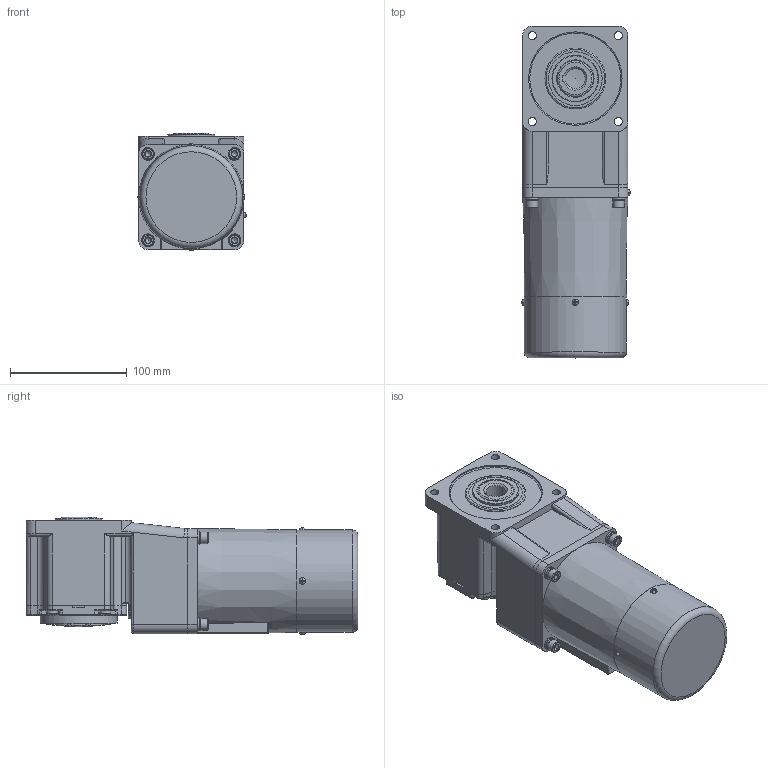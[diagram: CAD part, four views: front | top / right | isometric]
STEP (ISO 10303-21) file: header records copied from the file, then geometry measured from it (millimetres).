
FILE_DESCRIPTION(/* description */ (''),/* implementation_level */ '2;1');
FILE_NAME(/* name */ '90+中空直角-刹车-40W.stp',/* time_stamp */ '2022-09-27T10:34:21+08:00',/* author */ (''),/* organization */ (''),/* preprocessor_version */ 'ST-DEVELOPER v16.7',/* originating_system */ 'SIEMENS PLM Software NX 1899',/* authorisation */ '');
FILE_SCHEMA (('AP203_CONFIGURATION_CONTROLLED_3D_DESIGN_OF_MECHANICAL_PARTS_AND_ASSEMBLIES_MIM_LF { 1 0 10303 403 2 1 2}'));
Length unit declared in the file: millimetre
Products named in the file (1): yf1815905F60ugmo
Bounding box: 92.75 x 284 x 100.28 mm (x, y, z)
Volume: 1890063.4 mm3; surface area: 159414.7 mm2
Topology: 15 solids, 15 shells, 677 faces, 1604 edges, 979 vertices
Faces by surface type: plane 349, cylinder 201, torus 60, cone 49, sphere 10, bspline 8
Full cylindrical faces by diameter (mm): 3.3 x2, 4.5 x2, 5 x4, 5.5 x4, 5.795 x4, 6.4 x4, 7 x8, 9.5 x4, 10 x4, 11 x4, 30 x2, 40 x1, 47 x1, 47.5 x1, 52 x1, 60 x1, 60.5 x1, 66 x1, 67 x1, 76 x1, 80 x1, 86 x2, 87.6 x1
Entity records: 20626 total; most frequent: CARTESIAN_POINT 4549, DIRECTION 3126, ORIENTED_EDGE 2848, EDGE_CURVE 1424, AXIS2_PLACEMENT_3D 1222, VERTEX_POINT 924, EDGE_LOOP 844, LINE 682
